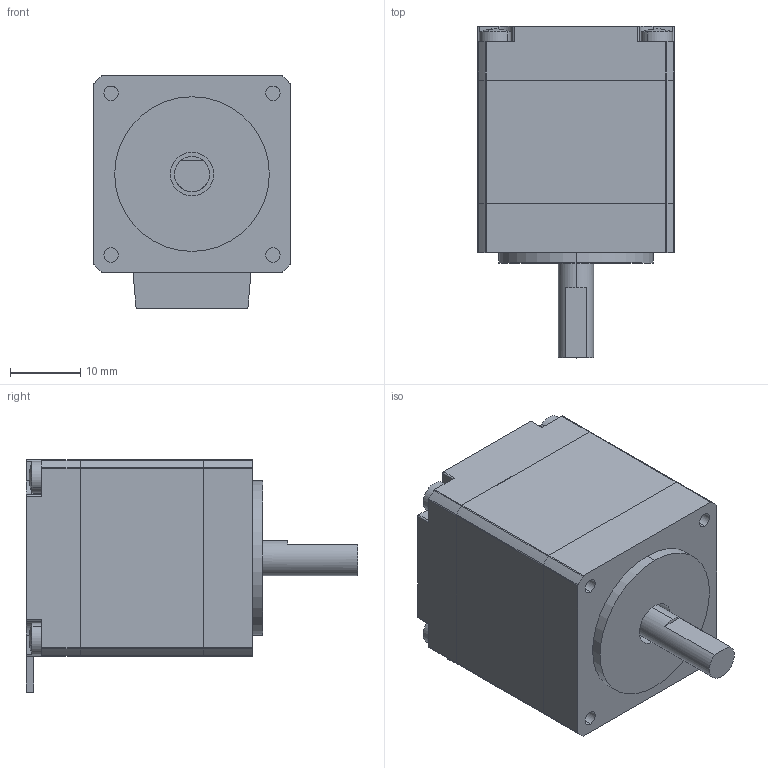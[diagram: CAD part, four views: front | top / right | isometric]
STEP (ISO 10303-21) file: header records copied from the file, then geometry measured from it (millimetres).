
FILE_DESCRIPTION (( 'STEP AP203' ), '1' );
FILE_NAME ('28CM005 V3.0.STEP', '2026-09-09T01:39:49', ( 'YOS' ), ( 'MS' ), 'SwSTEP 2.0', 'SolidWorks 2023', '' );
FILE_SCHEMA (( 'CONFIG_CONTROL_DESIGN' ));
Length unit declared in the file: millimetre
Products named in the file (5): cross recessed small pan head screws gb_GB_CROSS_SCREWS_TYPE3 M2.5X20-20-S; 前端盖DZ; 28CM005 V3.0; 后端盖; 28五相定子-H17.5
Assembly tree (7 placements, depth 2):
  28CM005 V3.0
    28五相定子-H17.5
    后端盖
    前端盖DZ
    cross recessed small pan head screws gb_GB_CROSS_SCREWS_TYPE3 M2.5X20-20-S  x4
Bounding box: 27.96 x 47.2 x 33.06 mm (x, y, z)
Volume: 24660.4 mm3; surface area: 11226.6 mm2
Topology: 8 solids, 8 shells, 1847 faces, 3862 edges, 2036 vertices
Faces by surface type: cone 1080, cylinder 652, plane 107, sphere 8
Entity records: 15865 total; most frequent: DIRECTION 2976, CARTESIAN_POINT 2546, ORIENTED_EDGE 2480, EDGE_CURVE 1240, AXIS2_PLACEMENT_3D 1178, VERTEX_POINT 692, VECTOR 620, LINE 620
